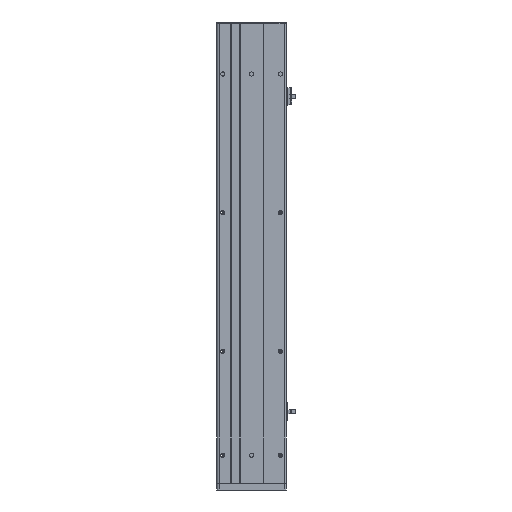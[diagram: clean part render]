
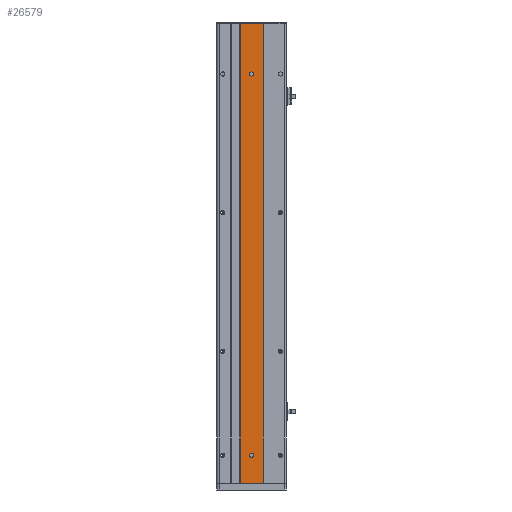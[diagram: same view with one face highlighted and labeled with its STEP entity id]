
A CAD part, front view. The second image highlights one B-rep face of the part: STEP entity #26579.
In plain terms, the highlighted planar face has unit normal (0, -1, 0).
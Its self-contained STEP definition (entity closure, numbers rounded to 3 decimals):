
#323 = CIRCLE ( 'NONE', #31870, 3. ) ;
#687 = ORIENTED_EDGE ( 'NONE', *, *, #11548, .F. ) ;
#1565 = CARTESIAN_POINT ( 'NONE',  ( 16.5, 0., -331.5 ) ) ;
#1767 = FACE_BOUND ( 'NONE', #14857, .T. ) ;
#2071 = CARTESIAN_POINT ( 'NONE',  ( 16.5, 0., 331.5 ) ) ;
#3068 = VECTOR ( 'NONE', #12341, 1000. ) ;
#3363 = FACE_OUTER_BOUND ( 'NONE', #12495, .T. ) ;
#5254 = DIRECTION ( 'NONE',  ( 1., 0., 0. ) ) ;
#5258 = CARTESIAN_POINT ( 'NONE',  ( -16.5, 0., 331.5 ) ) ;
#5705 = LINE ( 'NONE', #26344, #11610 ) ;
#6229 = EDGE_CURVE ( 'NONE', #27492, #11800, #30083, .T. ) ;
#6469 = CARTESIAN_POINT ( 'NONE',  ( 0., 0., 261.5 ) ) ;
#6489 = DIRECTION ( 'NONE',  ( 0., 0., 1. ) ) ;
#6514 = DIRECTION ( 'NONE',  ( 0., 1., 0. ) ) ;
#6700 = PLANE ( 'NONE',  #12143 ) ;
#7255 = DIRECTION ( 'NONE',  ( 0., 0., -1. ) ) ;
#7288 = CARTESIAN_POINT ( 'NONE',  ( -16.5, 0., 331.5 ) ) ;
#7770 = CARTESIAN_POINT ( 'NONE',  ( -16.5, 0., 331.5 ) ) ;
#7919 = ORIENTED_EDGE ( 'NONE', *, *, #15532, .F. ) ;
#8295 = DIRECTION ( 'NONE',  ( 0., 0., -1. ) ) ;
#8318 = DIRECTION ( 'NONE',  ( 0., -1., 0. ) ) ;
#8357 = CARTESIAN_POINT ( 'NONE',  ( 0., 0., 258.5 ) ) ;
#8555 = FACE_BOUND ( 'NONE', #17123, .T. ) ;
#8691 = ORIENTED_EDGE ( 'NONE', *, *, #6229, .T. ) ;
#9402 = AXIS2_PLACEMENT_3D ( 'NONE', #14187, #14145, #14112 ) ;
#9841 = ORIENTED_EDGE ( 'NONE', *, *, #10242, .F. ) ;
#10242 = EDGE_CURVE ( 'NONE', #16589, #11800, #5705, .T. ) ;
#11548 = EDGE_CURVE ( 'NONE', #31279, #16589, #26967, .T. ) ;
#11610 = VECTOR ( 'NONE', #26713, 1000. ) ;
#11800 = VERTEX_POINT ( 'NONE', #1565 ) ;
#12143 = AXIS2_PLACEMENT_3D ( 'NONE', #7288, #6514, #6489 ) ;
#12341 = DIRECTION ( 'NONE',  ( 1., 0., 0. ) ) ;
#12410 = CARTESIAN_POINT ( 'NONE',  ( -16.5, 0., -331.5 ) ) ;
#12495 = EDGE_LOOP ( 'NONE', ( #8691, #9841, #687, #22492 ) ) ;
#12682 = CARTESIAN_POINT ( 'NONE',  ( 0., 0., -294.5 ) ) ;
#12967 = ORIENTED_EDGE ( 'NONE', *, *, #24237, .F. ) ;
#14112 = DIRECTION ( 'NONE',  ( 0., 0., -1. ) ) ;
#14145 = DIRECTION ( 'NONE',  ( 0., -1., 0. ) ) ;
#14187 = CARTESIAN_POINT ( 'NONE',  ( 0., 0., -291.5 ) ) ;
#14857 = EDGE_LOOP ( 'NONE', ( #7919, #12967 ) ) ;
#15350 = EDGE_CURVE ( 'NONE', #21435, #20695, #27556, .T. ) ;
#15532 = EDGE_CURVE ( 'NONE', #27809, #31213, #18037, .T. ) ;
#16589 = VERTEX_POINT ( 'NONE', #2071 ) ;
#17123 = EDGE_LOOP ( 'NONE', ( #25568, #22523 ) ) ;
#17627 = CARTESIAN_POINT ( 'NONE',  ( -16.5, 0., -331.5 ) ) ;
#17694 = CIRCLE ( 'NONE', #9402, 3. ) ;
#18037 = CIRCLE ( 'NONE', #19170, 3. ) ;
#18726 = EDGE_CURVE ( 'NONE', #20695, #21435, #323, .T. ) ;
#19170 = AXIS2_PLACEMENT_3D ( 'NONE', #21167, #21132, #21100 ) ;
#20382 = CARTESIAN_POINT ( 'NONE',  ( 0., 0., -288.5 ) ) ;
#20519 = VECTOR ( 'NONE', #5254, 1000. ) ;
#20695 = VERTEX_POINT ( 'NONE', #6469 ) ;
#21100 = DIRECTION ( 'NONE',  ( 0., 0., -1. ) ) ;
#21132 = DIRECTION ( 'NONE',  ( 0., -1., 0. ) ) ;
#21167 = CARTESIAN_POINT ( 'NONE',  ( 0., 0., -291.5 ) ) ;
#21435 = VERTEX_POINT ( 'NONE', #31250 ) ;
#22492 = ORIENTED_EDGE ( 'NONE', *, *, #25878, .T. ) ;
#22523 = ORIENTED_EDGE ( 'NONE', *, *, #18726, .F. ) ;
#23143 = CARTESIAN_POINT ( 'NONE',  ( -16.5, 0., 331.5 ) ) ;
#23450 = DIRECTION ( 'NONE',  ( 0., 0., -1. ) ) ;
#23463 = DIRECTION ( 'NONE',  ( 0., -1., 0. ) ) ;
#23486 = CARTESIAN_POINT ( 'NONE',  ( 0., 0., 258.5 ) ) ;
#24237 = EDGE_CURVE ( 'NONE', #31213, #27809, #17694, .T. ) ;
#24286 = VECTOR ( 'NONE', #7255, 1000. ) ;
#25568 = ORIENTED_EDGE ( 'NONE', *, *, #15350, .F. ) ;
#25878 = EDGE_CURVE ( 'NONE', #31279, #27492, #30714, .T. ) ;
#26344 = CARTESIAN_POINT ( 'NONE',  ( 16.5, 0., 331.5 ) ) ;
#26579 = ADVANCED_FACE ( 'NONE', ( #1767, #8555, #3363 ), #6700, .F. ) ;
#26713 = DIRECTION ( 'NONE',  ( 0., 0., -1. ) ) ;
#26967 = LINE ( 'NONE', #5258, #20519 ) ;
#27492 = VERTEX_POINT ( 'NONE', #17627 ) ;
#27556 = CIRCLE ( 'NONE', #29533, 3. ) ;
#27809 = VERTEX_POINT ( 'NONE', #12682 ) ;
#29533 = AXIS2_PLACEMENT_3D ( 'NONE', #23486, #23463, #23450 ) ;
#30083 = LINE ( 'NONE', #12410, #3068 ) ;
#30714 = LINE ( 'NONE', #7770, #24286 ) ;
#31213 = VERTEX_POINT ( 'NONE', #20382 ) ;
#31250 = CARTESIAN_POINT ( 'NONE',  ( 0., 0., 255.5 ) ) ;
#31279 = VERTEX_POINT ( 'NONE', #23143 ) ;
#31870 = AXIS2_PLACEMENT_3D ( 'NONE', #8357, #8318, #8295 ) ;
